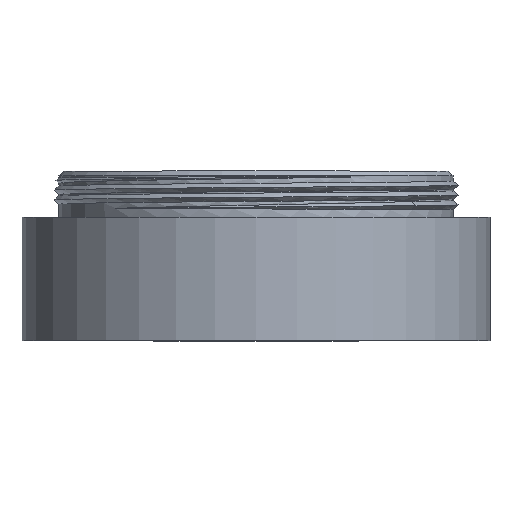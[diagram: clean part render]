
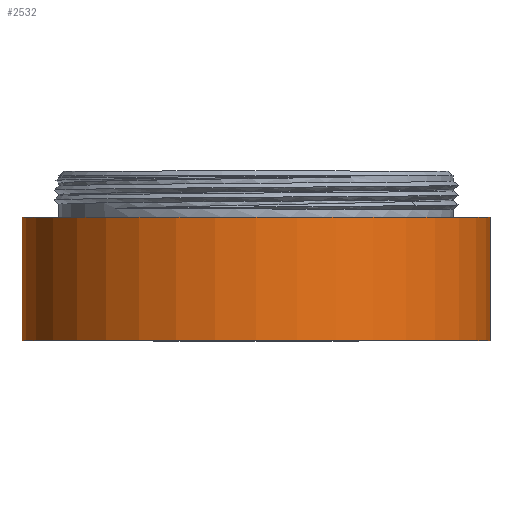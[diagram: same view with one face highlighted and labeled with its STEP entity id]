
A CAD part, top view. The second image highlights one B-rep face of the part: STEP entity #2532.
In plain terms, the highlighted cylindrical face has radius 15.2 mm (diameter 30.4 mm), a partial arc.
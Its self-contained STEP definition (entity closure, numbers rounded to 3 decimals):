
#6=CARTESIAN_POINT('',(0.,8.,0.));
#7=DIRECTION('',(0.,1.,0.));
#8=DIRECTION('',(-1.,0.,0.));
#9=AXIS2_PLACEMENT_3D('',#6,#7,#8);
#21=DIRECTION('',(0.,1.,0.));
#22=VECTOR('',#21,8.);
#23=CARTESIAN_POINT('',(15.2,0.,0.));
#24=LINE('',#23,#22);
#30=CARTESIAN_POINT('',(0.,0.,0.));
#31=DIRECTION('',(0.,1.,0.));
#32=DIRECTION('',(-1.,0.,0.));
#33=AXIS2_PLACEMENT_3D('',#30,#31,#32);
#83=DIRECTION('',(0.,1.,0.));
#84=VECTOR('',#83,8.);
#85=CARTESIAN_POINT('',(-15.2,0.,0.));
#86=LINE('',#85,#84);
#2357=CARTESIAN_POINT('',(15.2,0.,0.));
#2358=CARTESIAN_POINT('',(-15.2,0.,0.));
#2359=VERTEX_POINT('',#2357);
#2360=VERTEX_POINT('',#2358);
#2361=CARTESIAN_POINT('',(15.2,8.,0.));
#2362=CARTESIAN_POINT('',(-15.2,8.,0.));
#2363=VERTEX_POINT('',#2361);
#2364=VERTEX_POINT('',#2362);
#2521=CARTESIAN_POINT('',(0.,0.,0.));
#2522=DIRECTION('',(0.,1.,0.));
#2523=DIRECTION('',(1.,0.,0.));
#2524=AXIS2_PLACEMENT_3D('',#2521,#2522,#2523);
#2525=CYLINDRICAL_SURFACE('',#2524,15.2);
#2526=ORIENTED_EDGE('',*,*,#2508,.F.);
#2527=ORIENTED_EDGE('',*,*,#2497,.T.);
#2528=ORIENTED_EDGE('',*,*,#2476,.T.);
#2529=ORIENTED_EDGE('',*,*,#2494,.F.);
#2530=EDGE_LOOP('',(#2526,#2527,#2528,#2529));
#2531=FACE_OUTER_BOUND('',#2530,.F.);
#2532=ADVANCED_FACE('',(#2531),#2525,.T.);
#10=CIRCLE('',#9,15.2);
#34=CIRCLE('',#33,15.2);
#2476=EDGE_CURVE('',#2364,#2363,#10,.T.);
#2494=EDGE_CURVE('',#2359,#2363,#24,.T.);
#2497=EDGE_CURVE('',#2360,#2364,#86,.T.);
#2508=EDGE_CURVE('',#2360,#2359,#34,.T.);
